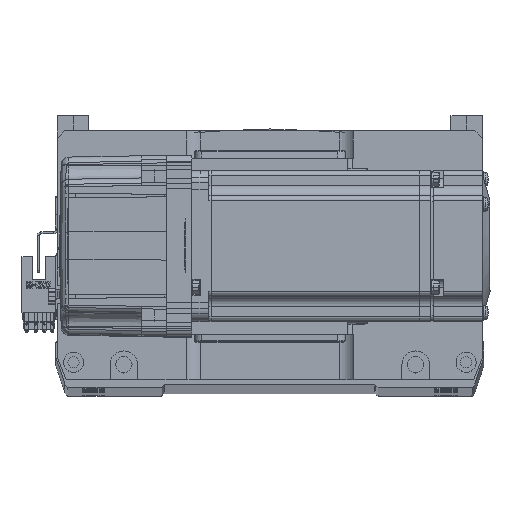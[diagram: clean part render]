
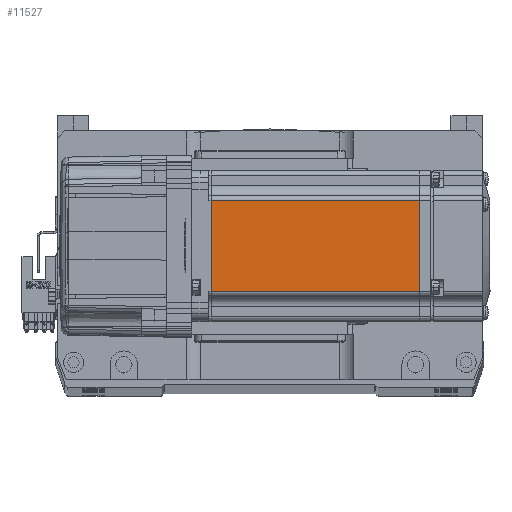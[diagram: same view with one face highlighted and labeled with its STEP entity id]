
A CAD part, top view. The second image highlights one B-rep face of the part: STEP entity #11527.
In plain terms, the highlighted planar face has unit normal (0, 0, 1) as drawn and (0, -1, 0) by its records, which use the part's own axes.
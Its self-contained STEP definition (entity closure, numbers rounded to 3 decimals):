
#4131 = LINE ( 'NONE', #49527, #18708 ) ;
#6275 = VECTOR ( 'NONE', #35637, 1000. ) ;
#9765 = DIRECTION ( 'NONE',  ( 0., 0., -1. ) ) ;
#11527 = ADVANCED_FACE ( 'NONE', ( #54309 ), #56017, .T. ) ;
#14496 = VECTOR ( 'NONE', #59974, 1000. ) ;
#16261 = EDGE_CURVE ( 'NONE', #49816, #49303, #4131, .T. ) ;
#18708 = VECTOR ( 'NONE', #23864, 1000. ) ;
#20772 = CARTESIAN_POINT ( 'NONE',  ( -90.45, -30., 18. ) ) ;
#21606 = VERTEX_POINT ( 'NONE', #20772 ) ;
#23846 = CARTESIAN_POINT ( 'NONE',  ( -6.5, -30., 18. ) ) ;
#23864 = DIRECTION ( 'NONE',  ( 1., 0., 0. ) ) ;
#24671 = DIRECTION ( 'NONE',  ( 0., -1., 0. ) ) ;
#25270 = CARTESIAN_POINT ( 'NONE',  ( -90.45, -30., -25. ) ) ;
#25667 = CARTESIAN_POINT ( 'NONE',  ( -7.75, -30., -25. ) ) ;
#27981 = EDGE_CURVE ( 'NONE', #21606, #49816, #61243, .T. ) ;
#28243 = LINE ( 'NONE', #25667, #40333 ) ;
#28296 = LINE ( 'NONE', #23846, #14496 ) ;
#33182 = CARTESIAN_POINT ( 'NONE',  ( -7.75, -30., -18. ) ) ;
#35637 = DIRECTION ( 'NONE',  ( 0., 0., -1. ) ) ;
#36154 = EDGE_LOOP ( 'NONE', ( #59796, #66602, #42909, #51813 ) ) ;
#40291 = EDGE_CURVE ( 'NONE', #65970, #21606, #28296, .T. ) ;
#40333 = VECTOR ( 'NONE', #52232, 1000. ) ;
#40693 = CARTESIAN_POINT ( 'NONE',  ( -6.5, -30., -25. ) ) ;
#42909 = ORIENTED_EDGE ( 'NONE', *, *, #27981, .T. ) ;
#43132 = AXIS2_PLACEMENT_3D ( 'NONE', #40693, #24671, #9765 ) ;
#49303 = VERTEX_POINT ( 'NONE', #33182 ) ;
#49304 = CARTESIAN_POINT ( 'NONE',  ( -90.45, -30., -18. ) ) ;
#49527 = CARTESIAN_POINT ( 'NONE',  ( -6.5, -30., -18. ) ) ;
#49816 = VERTEX_POINT ( 'NONE', #49304 ) ;
#51813 = ORIENTED_EDGE ( 'NONE', *, *, #16261, .T. ) ;
#52232 = DIRECTION ( 'NONE',  ( 0., 0., 1. ) ) ;
#54309 = FACE_OUTER_BOUND ( 'NONE', #36154, .T. ) ;
#56017 = PLANE ( 'NONE',  #43132 ) ;
#59490 = CARTESIAN_POINT ( 'NONE',  ( -7.75, -30., 18. ) ) ;
#59796 = ORIENTED_EDGE ( 'NONE', *, *, #65690, .T. ) ;
#59974 = DIRECTION ( 'NONE',  ( -1., 0., 0. ) ) ;
#61243 = LINE ( 'NONE', #25270, #6275 ) ;
#65690 = EDGE_CURVE ( 'NONE', #49303, #65970, #28243, .T. ) ;
#65970 = VERTEX_POINT ( 'NONE', #59490 ) ;
#66602 = ORIENTED_EDGE ( 'NONE', *, *, #40291, .T. ) ;
